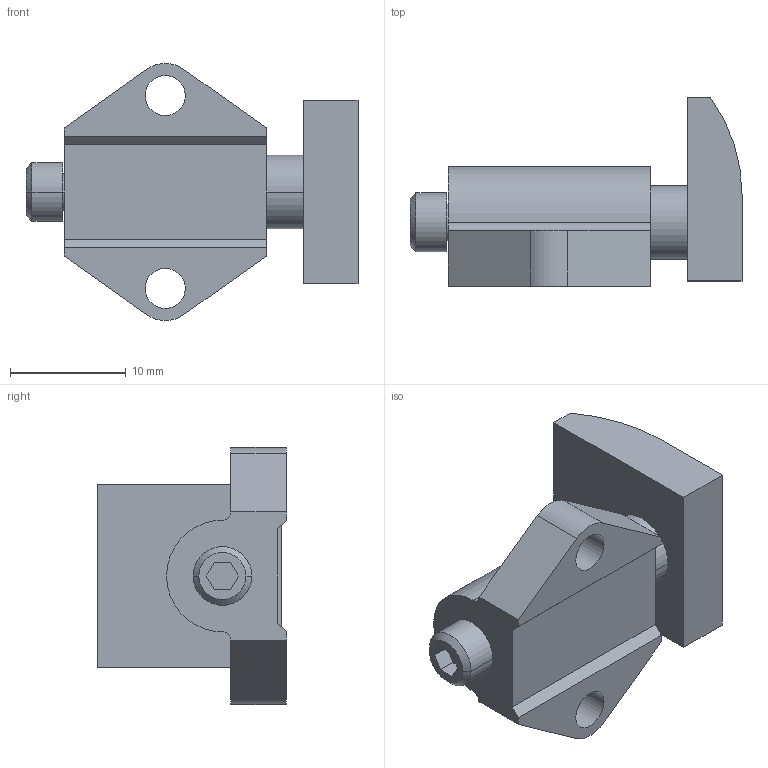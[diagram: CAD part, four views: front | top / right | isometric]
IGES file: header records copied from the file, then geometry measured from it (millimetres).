
Start section:  PTC IGES file: ss88b-3d.igs
Global section: file name: ss88b-3d.igs; native system: Pro/ENGINEER by Parametric Technology Corporation; preprocessor: 2002350; author: chant; organization: Unknown; date: 061026.111541; units: inch
Bounding box: 28.7 x 16.33 x 22.23 mm (x, y, z)
Surface area: 2545.6 mm2 (no closed solid volume)
Topology: 0 solids, 0 shells, 54 faces, 365 edges, 460 vertices
Faces by surface type: bspline 30, revolution 24
